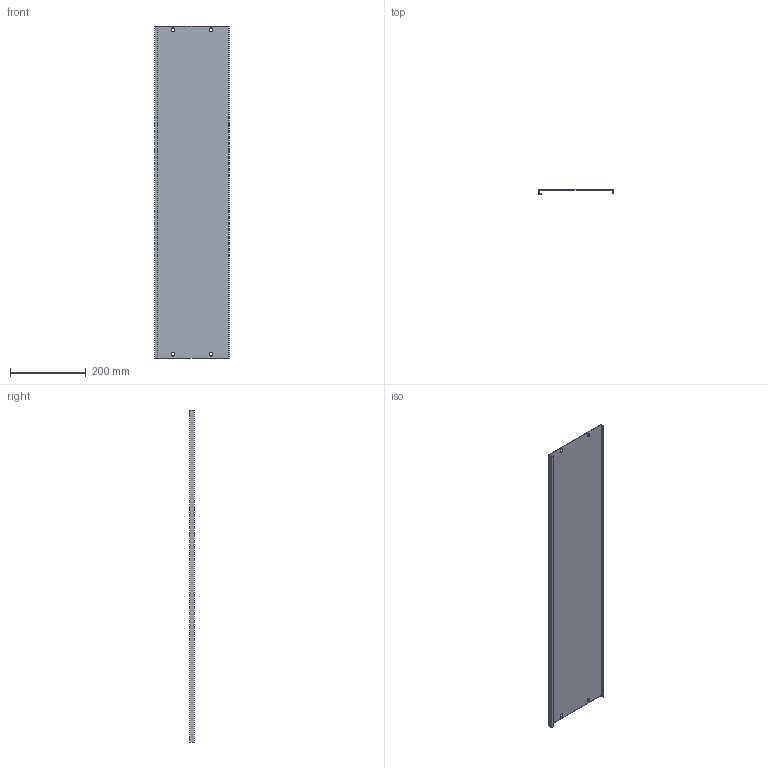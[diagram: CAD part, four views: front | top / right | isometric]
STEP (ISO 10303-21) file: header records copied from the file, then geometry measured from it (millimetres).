
FILE_DESCRIPTION (( 'STEP AP214' ), '1' );
FILE_NAME ('FO-00-PVS-020-100 Ïëàñòðîí ãëóõîé âíóòðåííèé 200õ1000.STEP', '2025-08-27T08:42:54', ( '' ), ( '' ), 'SwSTEP 2.0', 'SolidWorks 2023', '' );
FILE_SCHEMA (( 'AUTOMOTIVE_DESIGN' ));
Length unit declared in the file: millimetre
Products named in the file (1): FO-00-PVS-020-100 Пластрон глухой внутренний 200х1000
Bounding box: 198 x 12.5 x 879 mm (x, y, z)
Volume: 294987.1 mm3; surface area: 396793.1 mm2
Topology: 1 solids, 1 shells, 42 faces, 120 edges, 80 vertices
Faces by surface type: plane 30, cylinder 12
Entity records: 1407 total; most frequent: CARTESIAN_POINT 243, ORIENTED_EDGE 240, DIRECTION 230, EDGE_CURVE 120, VECTOR 96, LINE 96, VERTEX_POINT 80, AXIS2_PLACEMENT_3D 67
